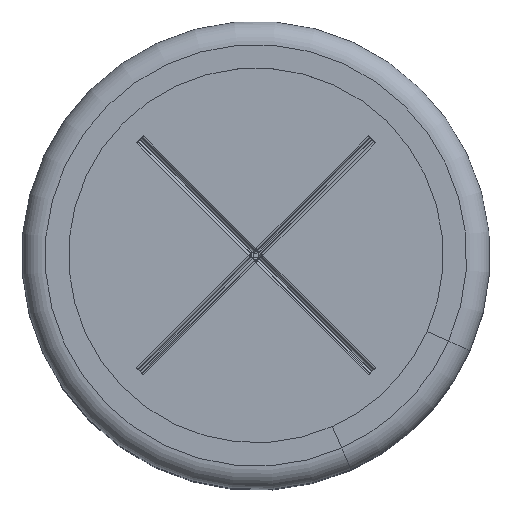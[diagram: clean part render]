
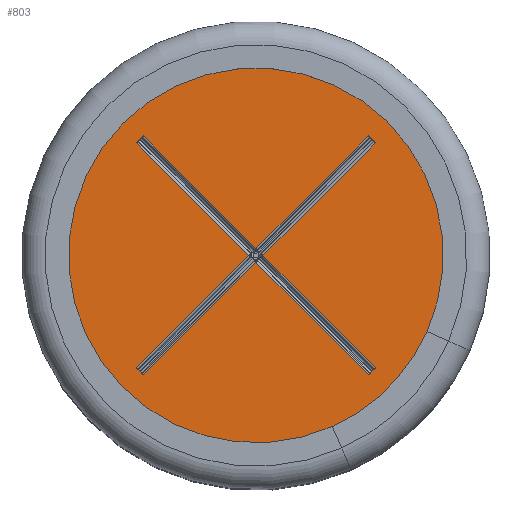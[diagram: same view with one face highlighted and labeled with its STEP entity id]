
A CAD part, top view. The second image highlights one B-rep face of the part: STEP entity #803.
In plain terms, the highlighted planar face has unit normal (0, 0, 1).
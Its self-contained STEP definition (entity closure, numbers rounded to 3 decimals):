
#176=FACE_BOUND('',#1284,.T.);
#177=FACE_BOUND('',#1285,.T.);
#687=PLANE('',#4047);
#803=ADVANCED_FACE('',(#176,#177),#687,.T.);
#1284=EDGE_LOOP('',(#2130));
#1285=EDGE_LOOP('',(#2131,#2132,#2133,#2134,#2135,#2136,#2137,#2138,#2139,
#2140,#2141,#2142));
#1517=LINE('',#5710,#1771);
#1518=LINE('',#5713,#1772);
#1519=LINE('',#5715,#1773);
#1520=LINE('',#5717,#1774);
#1521=LINE('',#5719,#1775);
#1522=LINE('',#5721,#1776);
#1523=LINE('',#5723,#1777);
#1524=LINE('',#5725,#1778);
#1525=LINE('',#5727,#1779);
#1526=LINE('',#5729,#1780);
#1527=LINE('',#5731,#1781);
#1528=LINE('',#5733,#1782);
#1771=VECTOR('',#4590,1.);
#1772=VECTOR('',#4591,1.);
#1773=VECTOR('',#4592,1.);
#1774=VECTOR('',#4593,1.);
#1775=VECTOR('',#4594,1.);
#1776=VECTOR('',#4595,1.);
#1777=VECTOR('',#4596,1.);
#1778=VECTOR('',#4597,1.);
#1779=VECTOR('',#4598,1.);
#1780=VECTOR('',#4599,1.);
#1781=VECTOR('',#4600,1.);
#1782=VECTOR('',#4601,1.);
#2130=ORIENTED_EDGE('',*,*,#3368,.F.);
#2131=ORIENTED_EDGE('',*,*,#3369,.F.);
#2132=ORIENTED_EDGE('',*,*,#3370,.T.);
#2133=ORIENTED_EDGE('',*,*,#3371,.T.);
#2134=ORIENTED_EDGE('',*,*,#3372,.T.);
#2135=ORIENTED_EDGE('',*,*,#3373,.T.);
#2136=ORIENTED_EDGE('',*,*,#3374,.T.);
#2137=ORIENTED_EDGE('',*,*,#3375,.T.);
#2138=ORIENTED_EDGE('',*,*,#3376,.T.);
#2139=ORIENTED_EDGE('',*,*,#3377,.T.);
#2140=ORIENTED_EDGE('',*,*,#3378,.F.);
#2141=ORIENTED_EDGE('',*,*,#3379,.T.);
#2142=ORIENTED_EDGE('',*,*,#3380,.T.);
#3038=VERTEX_POINT('',#5709);
#3039=VERTEX_POINT('',#5711);
#3040=VERTEX_POINT('',#5712);
#3041=VERTEX_POINT('',#5714);
#3042=VERTEX_POINT('',#5716);
#3043=VERTEX_POINT('',#5718);
#3044=VERTEX_POINT('',#5720);
#3045=VERTEX_POINT('',#5722);
#3046=VERTEX_POINT('',#5724);
#3047=VERTEX_POINT('',#5726);
#3048=VERTEX_POINT('',#5728);
#3049=VERTEX_POINT('',#5730);
#3050=VERTEX_POINT('',#5732);
#3368=EDGE_CURVE('',#3038,#3038,#3826,.T.);
#3369=EDGE_CURVE('',#3039,#3040,#1517,.T.);
#3370=EDGE_CURVE('',#3039,#3041,#1518,.T.);
#3371=EDGE_CURVE('',#3041,#3042,#1519,.T.);
#3372=EDGE_CURVE('',#3042,#3043,#1520,.T.);
#3373=EDGE_CURVE('',#3043,#3044,#1521,.T.);
#3374=EDGE_CURVE('',#3044,#3045,#1522,.T.);
#3375=EDGE_CURVE('',#3045,#3046,#1523,.T.);
#3376=EDGE_CURVE('',#3046,#3047,#1524,.T.);
#3377=EDGE_CURVE('',#3047,#3048,#1525,.T.);
#3378=EDGE_CURVE('',#3049,#3048,#1526,.T.);
#3379=EDGE_CURVE('',#3049,#3050,#1527,.T.);
#3380=EDGE_CURVE('',#3050,#3040,#1528,.T.);
#3826=CIRCLE('',#4046,9.);
#4046=AXIS2_PLACEMENT_3D('',#5708,#4588,#4589);
#4047=AXIS2_PLACEMENT_3D('',#5734,#4602,#4603);
#4588=DIRECTION('',(0.,0.,-1.));
#4589=DIRECTION('',(-1.,0.,0.));
#4590=DIRECTION('',(0.707,-0.707,0.));
#4591=DIRECTION('',(0.707,0.707,0.));
#4592=DIRECTION('',(-0.707,0.707,0.));
#4593=DIRECTION('',(0.707,0.707,0.));
#4594=DIRECTION('',(0.707,-0.707,0.));
#4595=DIRECTION('',(0.707,0.707,0.));
#4596=DIRECTION('',(0.707,-0.707,0.));
#4597=DIRECTION('',(-0.707,-0.707,0.));
#4598=DIRECTION('',(0.707,-0.707,0.));
#4599=DIRECTION('',(0.707,0.707,0.));
#4600=DIRECTION('',(-0.707,0.707,0.));
#4601=DIRECTION('',(-0.707,-0.707,0.));
#4602=DIRECTION('',(0.,0.,1.));
#4603=DIRECTION('',(1.,0.,0.));
#5708=CARTESIAN_POINT('',(0.,0.,24.8));
#5709=CARTESIAN_POINT('',(-9.,0.,24.8));
#5710=CARTESIAN_POINT('',(-5.056,-4.844,24.8));
#5711=CARTESIAN_POINT('',(-5.1,-4.8,24.8));
#5712=CARTESIAN_POINT('',(-4.8,-5.1,24.8));
#5713=CARTESIAN_POINT('',(-4.65,-4.35,24.8));
#5714=CARTESIAN_POINT('',(-0.3,0.,24.8));
#5715=CARTESIAN_POINT('',(-4.65,4.35,24.8));
#5716=CARTESIAN_POINT('',(-5.1,4.8,24.8));
#5717=CARTESIAN_POINT('',(-4.844,5.056,24.8));
#5718=CARTESIAN_POINT('',(-4.8,5.1,24.8));
#5719=CARTESIAN_POINT('',(-4.35,4.65,24.8));
#5720=CARTESIAN_POINT('',(0.,0.3,24.8));
#5721=CARTESIAN_POINT('',(-4.65,-4.35,24.8));
#5722=CARTESIAN_POINT('',(4.8,5.1,24.8));
#5723=CARTESIAN_POINT('',(4.844,5.056,24.8));
#5724=CARTESIAN_POINT('',(5.1,4.8,24.8));
#5725=CARTESIAN_POINT('',(-4.35,-4.65,24.8));
#5726=CARTESIAN_POINT('',(0.3,0.,24.8));
#5727=CARTESIAN_POINT('',(-4.35,4.65,24.8));
#5728=CARTESIAN_POINT('',(5.1,-4.8,24.8));
#5729=CARTESIAN_POINT('',(5.056,-4.844,24.8));
#5730=CARTESIAN_POINT('',(4.8,-5.1,24.8));
#5731=CARTESIAN_POINT('',(-4.65,4.35,24.8));
#5732=CARTESIAN_POINT('',(0.,-0.3,24.8));
#5733=CARTESIAN_POINT('',(-4.35,-4.65,24.8));
#5734=CARTESIAN_POINT('',(-9.,0.,24.8));
